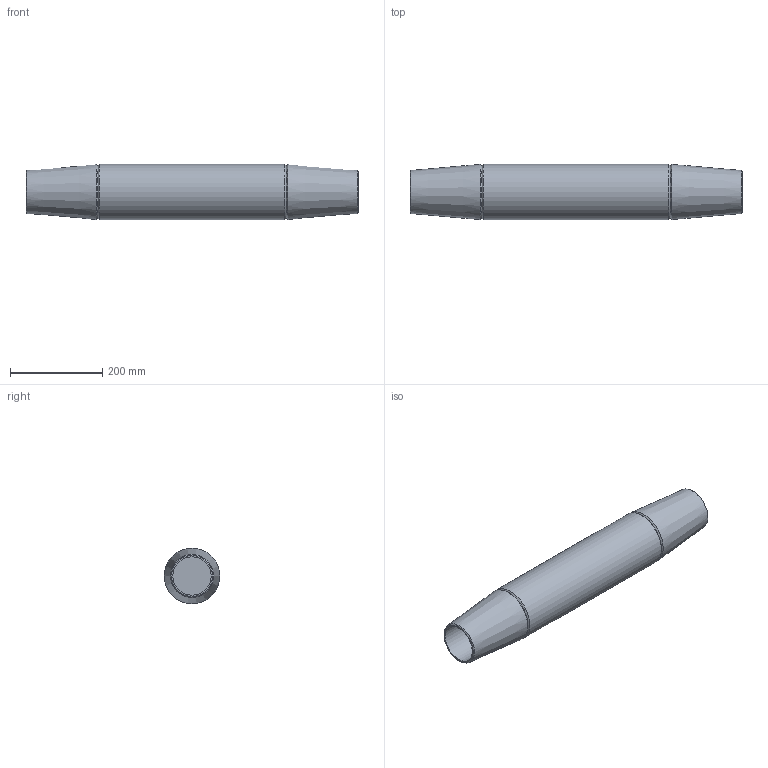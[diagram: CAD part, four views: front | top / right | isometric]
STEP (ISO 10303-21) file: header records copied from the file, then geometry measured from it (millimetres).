
FILE_DESCRIPTION(/* description */ (''),/* implementation_level */ '2;1');
FILE_NAME(/* name */ 'G:\Engineering\700 CAD\Internet-PX-1-step-igs-dxf\520-MUF-Arbeitsdateien\520-080-MUF.stp',/* time_stamp */ '2020-06-30T13:23:28+02:00',/* author */ ('schwarz'),/* organization */ (''),/* preprocessor_version */ 'ST-DEVELOPER v16.1',/* originating_system */ 'Autodesk Inventor 2016',/* authorisation */ '');
FILE_SCHEMA (('AUTOMOTIVE_DESIGN { 1 0 10303 214 3 1 1 }'));
Length unit declared in the file: centimetre
Products named in the file (1): Zusammenbau Muffe 520 080 Kunde
Bounding box: 718 x 120 x 120 mm (x, y, z)
Volume: 6135440.6 mm3; surface area: 332341.2 mm2
Topology: 1 solids, 1 shells, 15 faces, 25 edges, 14 vertices
Faces by surface type: cone 8, plane 4, cylinder 3
Full cylindrical faces by diameter (mm): 83 x2, 120 x1
Entity records: 347 total; most frequent: DIRECTION 60, CARTESIAN_POINT 44, AXIS2_PLACEMENT_3D 30, EDGE_LOOP 28, ORIENTED_EDGE 28, STYLED_ITEM 16, FACE_OUTER_BOUND 15, ADVANCED_FACE 15
